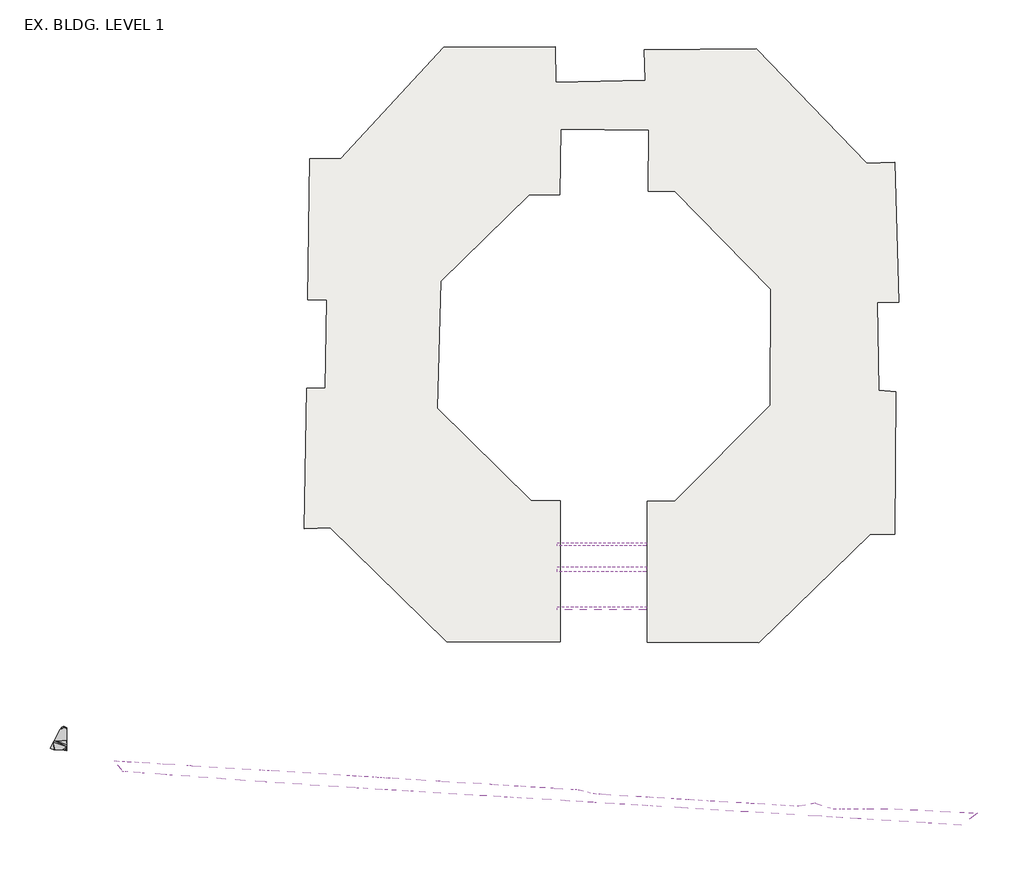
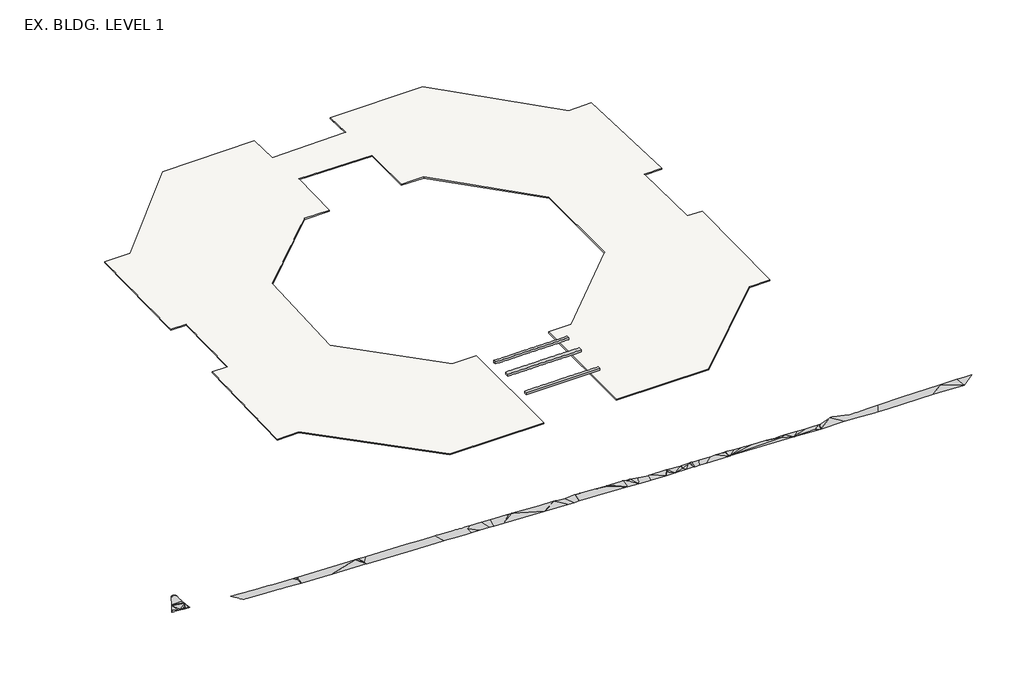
# One storey, incomplete: 3 beams, 2 proxies, 1 slab.
"""IFC4 building model written with IfcOpenShell, lengths in millimetres."""

from ifc_helpers import new_model, si_unit, frame, origin, place, context, project, spatial, polyline, outline, extrude, faceted_brep, triangles, element, save

model = new_model("IFC4")

# Units and contexts
model_context = context("Model", 3, world=origin())
ifc_project = project(units=[si_unit("LENGTHUNIT", "METRE", prefix="MILLI")], contexts=[model_context])

# Site, building, storey
site = spatial("IfcSite", under=ifc_project)
building = spatial("IfcBuilding", under=site)
storey = spatial("IfcBuildingStorey", under=building, Name="EX. BLDG. LEVEL 1", Elevation=290690.3)

# Beams
placement = place(None, origin())
element("IfcBeam", 1, ObjectType="Concrete-Rectangular Beam : 24 x 20\"", at=placement, inside=storey, context=model_context, shape_type="Brep", body=[
    faceted_brep([(39697.4615466, 219988.1613196, 294652.7), (39697.4615466, 219378.5613196, 294652.7), (39697.4615466, 219378.5613196, 294144.7), (39697.4615466, 219988.1613196, 294144.7), (22171.4615466, 219988.1613196, 294652.7), (22171.4615466, 219988.1613196, 294144.7), (22171.4615466, 219378.5613196, 294144.7), (22171.4615466, 219378.5613196, 294652.7), (39629.0226838, 219988.1613196, 294652.7), (39451.2226838, 219988.1613196, 294652.7), (38714.6226838, 219988.1613196, 294652.7), (38536.8226838, 219988.1613196, 294652.7), (37800.2226838, 219988.1613196, 294652.7), (37622.4226838, 219988.1613196, 294652.7), (36885.8226838, 219988.1613196, 294652.7), (36708.0226838, 219988.1613196, 294652.7), (35971.4226838, 219988.1613196, 294652.7), (35793.6226838, 219988.1613196, 294652.7), (35057.0226838, 219988.1613196, 294652.7), (34879.2226838, 219988.1613196, 294652.7), (34142.6226838, 219988.1613196, 294652.7), (33964.8226838, 219988.1613196, 294652.7), (33228.2226838, 219988.1613196, 294652.7), (33050.4226838, 219988.1613196, 294652.7), (32313.8226838, 219988.1613196, 294652.7), (32136.0226838, 219988.1613196, 294652.7), (31399.4226838, 219988.1613196, 294652.7), (31221.6226838, 219988.1613196, 294652.7), (30485.0226838, 219988.1613196, 294652.7), (30307.2226838, 219988.1613196, 294652.7), (29570.6226838, 219988.1613196, 294652.7), (29392.8226838, 219988.1613196, 294652.7), (28656.2226838, 219988.1613196, 294652.7), (28478.4226838, 219988.1613196, 294652.7), (27741.8226838, 219988.1613196, 294652.7), (27564.0226838, 219988.1613196, 294652.7), (26827.4226838, 219988.1613196, 294652.7), (26649.6226838, 219988.1613196, 294652.7), (25913.0226838, 219988.1613196, 294652.7), (25735.2226838, 219988.1613196, 294652.7), (24998.6226838, 219988.1613196, 294652.7), (24820.8226838, 219988.1613196, 294652.7), (24084.2226838, 219988.1613196, 294652.7), (23906.4226838, 219988.1613196, 294652.7), (23169.8226838, 219988.1613196, 294652.7), (22992.0226838, 219988.1613196, 294652.7), (22992.0226838, 219378.5613196, 294652.7), (23169.8226838, 219378.5613196, 294652.7), (23906.4226838, 219378.5613196, 294652.7), (24084.2226838, 219378.5613196, 294652.7), (24820.8226838, 219378.5613196, 294652.7), (24998.6226838, 219378.5613196, 294652.7), (25735.2226838, 219378.5613196, 294652.7), (25913.0226838, 219378.5613196, 294652.7), (26649.6226838, 219378.5613196, 294652.7), (26827.4226838, 219378.5613196, 294652.7), (27564.0226838, 219378.5613196, 294652.7), (27741.8226838, 219378.5613196, 294652.7), (28478.4226838, 219378.5613196, 294652.7), (28656.2226838, 219378.5613196, 294652.7), (29392.8226838, 219378.5613196, 294652.7), (29570.6226838, 219378.5613196, 294652.7), (30307.2226838, 219378.5613196, 294652.7), (30485.0226838, 219378.5613196, 294652.7), (31221.6226838, 219378.5613196, 294652.7), (31399.4226838, 219378.5613196, 294652.7), (32136.0226838, 219378.5613196, 294652.7), (32313.8226838, 219378.5613196, 294652.7), (33050.4226838, 219378.5613196, 294652.7), (33228.2226838, 219378.5613196, 294652.7), (33964.8226838, 219378.5613196, 294652.7), (34142.6226838, 219378.5613196, 294652.7), (34879.2226838, 219378.5613196, 294652.7), (35057.0226838, 219378.5613196, 294652.7), (35793.6226838, 219378.5613196, 294652.7), (35971.4226838, 219378.5613196, 294652.7), (36708.0226838, 219378.5613196, 294652.7), (36885.8226838, 219378.5613196, 294652.7), (37622.4226838, 219378.5613196, 294652.7), (37800.2226838, 219378.5613196, 294652.7), (38536.8226838, 219378.5613196, 294652.7), (38714.6226838, 219378.5613196, 294652.7), (39451.2226838, 219378.5613196, 294652.7), (39629.0226838, 219378.5613196, 294652.7), (22992.0226838, 219378.5613196, 294144.7), (23169.8226838, 219378.5613196, 294144.7), (23906.4226838, 219378.5613196, 294144.7), (24084.2226838, 219378.5613196, 294144.7), (24820.8226838, 219378.5613196, 294144.7), (24998.6226838, 219378.5613196, 294144.7), (25735.2226838, 219378.5613196, 294144.7), (25913.0226838, 219378.5613196, 294144.7), (26649.6226838, 219378.5613196, 294144.7), (26827.4226838, 219378.5613196, 294144.7), (27564.0226838, 219378.5613196, 294144.7), (27741.8226838, 219378.5613196, 294144.7), (28478.4226838, 219378.5613196, 294144.7), (28656.2226838, 219378.5613196, 294144.7), (29392.8226838, 219378.5613196, 294144.7), (29570.6226838, 219378.5613196, 294144.7), (30307.2226838, 219378.5613196, 294144.7), (30485.0226838, 219378.5613196, 294144.7), (31221.6226838, 219378.5613196, 294144.7), (31399.4226838, 219378.5613196, 294144.7), (32136.0226838, 219378.5613196, 294144.7), (32313.8226838, 219378.5613196, 294144.7), (33050.4226838, 219378.5613196, 294144.7), (33228.2226838, 219378.5613196, 294144.7), (33964.8226838, 219378.5613196, 294144.7), (34142.6226838, 219378.5613196, 294144.7), (34879.2226838, 219378.5613196, 294144.7), (35057.0226838, 219378.5613196, 294144.7), (35793.6226838, 219378.5613196, 294144.7), (35971.4226838, 219378.5613196, 294144.7), (36708.0226838, 219378.5613196, 294144.7), (36885.8226838, 219378.5613196, 294144.7), (37622.4226838, 219378.5613196, 294144.7), (37800.2226838, 219378.5613196, 294144.7), (38536.8226838, 219378.5613196, 294144.7), (38714.6226838, 219378.5613196, 294144.7), (39451.2226838, 219378.5613196, 294144.7), (39629.0226838, 219378.5613196, 294144.7), (22992.0226838, 219988.1613196, 294144.7), (23169.8226838, 219988.1613196, 294144.7), (23906.4226838, 219988.1613196, 294144.7), (24084.2226838, 219988.1613196, 294144.7), (24820.8226838, 219988.1613196, 294144.7), (24998.6226838, 219988.1613196, 294144.7), (25735.2226838, 219988.1613196, 294144.7), (25913.0226838, 219988.1613196, 294144.7), (26649.6226838, 219988.1613196, 294144.7), (26827.4226838, 219988.1613196, 294144.7), (27564.0226838, 219988.1613196, 294144.7), (27741.8226838, 219988.1613196, 294144.7), (28478.4226838, 219988.1613196, 294144.7), (28656.2226838, 219988.1613196, 294144.7), (29392.8226838, 219988.1613196, 294144.7), (29570.6226838, 219988.1613196, 294144.7), (30307.2226838, 219988.1613196, 294144.7), (30485.0226838, 219988.1613196, 294144.7), (31221.6226838, 219988.1613196, 294144.7), (31399.4226838, 219988.1613196, 294144.7), (32136.0226838, 219988.1613196, 294144.7), (32313.8226838, 219988.1613196, 294144.7), (33050.4226838, 219988.1613196, 294144.7), (33228.2226838, 219988.1613196, 294144.7), (33964.8226838, 219988.1613196, 294144.7), (34142.6226838, 219988.1613196, 294144.7), (34879.2226838, 219988.1613196, 294144.7), (35057.0226838, 219988.1613196, 294144.7), (35793.6226838, 219988.1613196, 294144.7), (35971.4226838, 219988.1613196, 294144.7), (36708.0226838, 219988.1613196, 294144.7), (36885.8226838, 219988.1613196, 294144.7), (37622.4226838, 219988.1613196, 294144.7), (37800.2226838, 219988.1613196, 294144.7), (38536.8226838, 219988.1613196, 294144.7), (38714.6226838, 219988.1613196, 294144.7), (39451.2226838, 219988.1613196, 294144.7), (39629.0226838, 219988.1613196, 294144.7)], [[[0, 1, 2, 3]], [[4, 5, 6, 7]], [[1, 0, 8, 9, 10, 11, 12, 13, 14, 15, 16, 17, 18, 19, 20, 21, 22, 23, 24, 25, 26, 27, 28, 29, 30, 31, 32, 33, 34, 35, 36, 37, 38, 39, 40, 41, 42, 43, 44, 45, 4, 7, 46, 47, 48, 49, 50, 51, 52, 53, 54, 55, 56, 57, 58, 59, 60, 61, 62, 63, 64, 65, 66, 67, 68, 69, 70, 71, 72, 73, 74, 75, 76, 77, 78, 79, 80, 81, 82, 83]], [[2, 1, 83, 82, 81, 80, 79, 78, 77, 76, 75, 74, 73, 72, 71, 70, 69, 68, 67, 66, 65, 64, 63, 62, 61, 60, 59, 58, 57, 56, 55, 54, 53, 52, 51, 50, 49, 48, 47, 46, 7, 6, 84, 85, 86, 87, 88, 89, 90, 91, 92, 93, 94, 95, 96, 97, 98, 99, 100, 101, 102, 103, 104, 105, 106, 107, 108, 109, 110, 111, 112, 113, 114, 115, 116, 117, 118, 119, 120, 121]], [[3, 2, 121, 120, 119, 118, 117, 116, 115, 114, 113, 112, 111, 110, 109, 108, 107, 106, 105, 104, 103, 102, 101, 100, 99, 98, 97, 96, 95, 94, 93, 92, 91, 90, 89, 88, 87, 86, 85, 84, 6, 5, 122, 123, 124, 125, 126, 127, 128, 129, 130, 131, 132, 133, 134, 135, 136, 137, 138, 139, 140, 141, 142, 143, 144, 145, 146, 147, 148, 149, 150, 151, 152, 153, 154, 155, 156, 157, 158, 159]], [[0, 3, 159, 158, 157, 156, 155, 154, 153, 152, 151, 150, 149, 148, 147, 146, 145, 144, 143, 142, 141, 140, 139, 138, 137, 136, 135, 134, 133, 132, 131, 130, 129, 128, 127, 126, 125, 124, 123, 122, 5, 4, 45, 44, 43, 42, 41, 40, 39, 38, 37, 36, 35, 34, 33, 32, 31, 30, 29, 28, 27, 26, 25, 24, 23, 22, 21, 20, 19, 18, 17, 16, 15, 14, 13, 12, 11, 10, 9, 8]]]),
])
element("IfcBeam", 2, ObjectType="Concrete-Rectangular Beam : 24 x 20\"", at=placement, inside=storey, context=model_context, shape_type="Brep", body=[
    faceted_brep([(39697.4615466, 207293.760969, 294652.7), (39697.4615466, 206684.160969, 294652.7), (39697.4615466, 206684.160969, 294144.7), (39697.4615466, 207293.760969, 294144.7), (22171.4615466, 207293.760969, 294652.7), (22171.4615466, 207293.760969, 294144.7), (22171.4615466, 206684.160969, 294144.7), (22171.4615466, 206684.160969, 294652.7), (39629.0226838, 207293.760969, 294652.7), (39451.2226838, 207293.760969, 294652.7), (38714.6226838, 207293.760969, 294652.7), (38536.8226838, 207293.760969, 294652.7), (37800.2226838, 207293.760969, 294652.7), (37622.4226838, 207293.760969, 294652.7), (36885.8226838, 207293.760969, 294652.7), (36708.0226838, 207293.760969, 294652.7), (35971.4226838, 207293.760969, 294652.7), (35793.6226838, 207293.760969, 294652.7), (35057.0226838, 207293.760969, 294652.7), (34879.2226838, 207293.760969, 294652.7), (34142.6226838, 207293.760969, 294652.7), (33964.8226838, 207293.760969, 294652.7), (33228.2226838, 207293.760969, 294652.7), (33050.4226838, 207293.760969, 294652.7), (32313.8226838, 207293.760969, 294652.7), (32136.0226838, 207293.760969, 294652.7), (31399.4226838, 207293.760969, 294652.7), (31221.6226838, 207293.760969, 294652.7), (30485.0226838, 207293.760969, 294652.7), (30307.2226838, 207293.760969, 294652.7), (29570.6226838, 207293.760969, 294652.7), (29392.8226838, 207293.760969, 294652.7), (28656.2226838, 207293.760969, 294652.7), (28478.4226838, 207293.760969, 294652.7), (27741.8226838, 207293.760969, 294652.7), (27564.0226838, 207293.760969, 294652.7), (26827.4226838, 207293.760969, 294652.7), (26649.6226838, 207293.760969, 294652.7), (25913.0226838, 207293.760969, 294652.7), (25735.2226838, 207293.760969, 294652.7), (24998.6226838, 207293.760969, 294652.7), (24820.8226838, 207293.760969, 294652.7), (24084.2226838, 207293.760969, 294652.7), (23906.4226838, 207293.760969, 294652.7), (23169.8226838, 207293.760969, 294652.7), (22992.0226838, 207293.760969, 294652.7), (22992.0226838, 207293.760969, 294144.7), (23169.8226838, 207293.760969, 294144.7), (23906.4226838, 207293.760969, 294144.7), (24084.2226838, 207293.760969, 294144.7), (24820.8226838, 207293.760969, 294144.7), (24998.6226838, 207293.760969, 294144.7), (25735.2226838, 207293.760969, 294144.7), (25913.0226838, 207293.760969, 294144.7), (26649.6226838, 207293.760969, 294144.7), (26827.4226838, 207293.760969, 294144.7), (27564.0226838, 207293.760969, 294144.7), (27741.8226838, 207293.760969, 294144.7), (28478.4226838, 207293.760969, 294144.7), (28656.2226838, 207293.760969, 294144.7), (29392.8226838, 207293.760969, 294144.7), (29570.6226838, 207293.760969, 294144.7), (30307.2226838, 207293.760969, 294144.7), (30485.0226838, 207293.760969, 294144.7), (31221.6226838, 207293.760969, 294144.7), (31399.4226838, 207293.760969, 294144.7), (32136.0226838, 207293.760969, 294144.7), (32313.8226838, 207293.760969, 294144.7), (33050.4226838, 207293.760969, 294144.7), (33228.2226838, 207293.760969, 294144.7), (33964.8226838, 207293.760969, 294144.7), (34142.6226838, 207293.760969, 294144.7), (34879.2226838, 207293.760969, 294144.7), (35057.0226838, 207293.760969, 294144.7), (35793.6226838, 207293.760969, 294144.7), (35971.4226838, 207293.760969, 294144.7), (36708.0226838, 207293.760969, 294144.7), (36885.8226838, 207293.760969, 294144.7), (37622.4226838, 207293.760969, 294144.7), (37800.2226838, 207293.760969, 294144.7), (38536.8226838, 207293.760969, 294144.7), (38714.6226838, 207293.760969, 294144.7), (39451.2226838, 207293.760969, 294144.7), (39629.0226838, 207293.760969, 294144.7)], [[[0, 1, 2, 3]], [[4, 5, 6, 7]], [[1, 0, 8, 9, 10, 11, 12, 13, 14, 15, 16, 17, 18, 19, 20, 21, 22, 23, 24, 25, 26, 27, 28, 29, 30, 31, 32, 33, 34, 35, 36, 37, 38, 39, 40, 41, 42, 43, 44, 45, 4, 7]], [[2, 1, 7, 6]], [[3, 2, 6, 5, 46, 47, 48, 49, 50, 51, 52, 53, 54, 55, 56, 57, 58, 59, 60, 61, 62, 63, 64, 65, 66, 67, 68, 69, 70, 71, 72, 73, 74, 75, 76, 77, 78, 79, 80, 81, 82, 83]], [[0, 3, 83, 82, 81, 80, 79, 78, 77, 76, 75, 74, 73, 72, 71, 70, 69, 68, 67, 66, 65, 64, 63, 62, 61, 60, 59, 58, 57, 56, 55, 54, 53, 52, 51, 50, 49, 48, 47, 46, 5, 4, 45, 44, 43, 42, 41, 40, 39, 38, 37, 36, 35, 34, 33, 32, 31, 30, 29, 28, 27, 26, 25, 24, 23, 22, 21, 20, 19, 18, 17, 16, 15, 14, 13, 12, 11, 10, 9, 8]]]),
])
element("IfcBeam", 3, ObjectType="Concrete-Rectangular Beam : 36\" x 20\"", at=placement, inside=storey, context=model_context, shape_type="Brep", body=[
    faceted_brep([(39697.4615466, 215192.390059, 294652.7), (39697.4615466, 214277.990059, 294652.7), (39697.4615466, 214277.990059, 294144.7), (39697.4615466, 215192.390059, 294144.7), (22171.4615466, 215192.390059, 294652.7), (22171.4615466, 215192.390059, 294144.7), (22171.4615466, 214277.990059, 294144.7), (22171.4615466, 214277.990059, 294652.7), (39629.0226838, 215192.390059, 294652.7), (39451.2226838, 215192.390059, 294652.7), (38714.6226838, 215192.390059, 294652.7), (38536.8226838, 215192.390059, 294652.7), (37800.2226838, 215192.390059, 294652.7), (37622.4226838, 215192.390059, 294652.7), (36885.8226838, 215192.390059, 294652.7), (36708.0226838, 215192.390059, 294652.7), (35971.4226838, 215192.390059, 294652.7), (35793.6226838, 215192.390059, 294652.7), (35057.0226838, 215192.390059, 294652.7), (34879.2226838, 215192.390059, 294652.7), (34142.6226838, 215192.390059, 294652.7), (33964.8226838, 215192.390059, 294652.7), (33228.2226838, 215192.390059, 294652.7), (33050.4226838, 215192.390059, 294652.7), (32313.8226838, 215192.390059, 294652.7), (32136.0226838, 215192.390059, 294652.7), (31399.4226838, 215192.390059, 294652.7), (31221.6226838, 215192.390059, 294652.7), (30485.0226838, 215192.390059, 294652.7), (30307.2226838, 215192.390059, 294652.7), (29570.6226838, 215192.390059, 294652.7), (29392.8226838, 215192.390059, 294652.7), (28656.2226838, 215192.390059, 294652.7), (28478.4226838, 215192.390059, 294652.7), (27741.8226838, 215192.390059, 294652.7), (27564.0226838, 215192.390059, 294652.7), (26827.4226838, 215192.390059, 294652.7), (26649.6226838, 215192.390059, 294652.7), (25913.0226838, 215192.390059, 294652.7), (25735.2226838, 215192.390059, 294652.7), (24998.6226838, 215192.390059, 294652.7), (24820.8226838, 215192.390059, 294652.7), (24084.2226838, 215192.390059, 294652.7), (23906.4226838, 215192.390059, 294652.7), (23169.8226838, 215192.390059, 294652.7), (22992.0226838, 215192.390059, 294652.7), (22992.0226838, 214277.990059, 294652.7), (23169.8226838, 214277.990059, 294652.7), (23906.4226838, 214277.990059, 294652.7), (24084.2226838, 214277.990059, 294652.7), (24820.8226838, 214277.990059, 294652.7), (24998.6226838, 214277.990059, 294652.7), (25735.2226838, 214277.990059, 294652.7), (25913.0226838, 214277.990059, 294652.7), (26649.6226838, 214277.990059, 294652.7), (26827.4226838, 214277.990059, 294652.7), (27564.0226838, 214277.990059, 294652.7), (27741.8226838, 214277.990059, 294652.7), (28478.4226838, 214277.990059, 294652.7), (28656.2226838, 214277.990059, 294652.7), (29392.8226838, 214277.990059, 294652.7), (29570.6226838, 214277.990059, 294652.7), (30307.2226838, 214277.990059, 294652.7), (30485.0226838, 214277.990059, 294652.7), (31221.6226838, 214277.990059, 294652.7), (31399.4226838, 214277.990059, 294652.7), (32136.0226838, 214277.990059, 294652.7), (32313.8226838, 214277.990059, 294652.7), (33050.4226838, 214277.990059, 294652.7), (33228.2226838, 214277.990059, 294652.7), (33964.8226838, 214277.990059, 294652.7), (34142.6226838, 214277.990059, 294652.7), (34879.2226838, 214277.990059, 294652.7), (35057.0226838, 214277.990059, 294652.7), (35793.6226838, 214277.990059, 294652.7), (35971.4226838, 214277.990059, 294652.7), (36708.0226838, 214277.990059, 294652.7), (36885.8226838, 214277.990059, 294652.7), (37622.4226838, 214277.990059, 294652.7), (37800.2226838, 214277.990059, 294652.7), (38536.8226838, 214277.990059, 294652.7), (38714.6226838, 214277.990059, 294652.7), (39451.2226838, 214277.990059, 294652.7), (39629.0226838, 214277.990059, 294652.7), (22992.0226838, 214277.990059, 294144.7), (23169.8226838, 214277.990059, 294144.7), (23906.4226838, 214277.990059, 294144.7), (24084.2226838, 214277.990059, 294144.7), (24820.8226838, 214277.990059, 294144.7), (24998.6226838, 214277.990059, 294144.7), (25735.2226838, 214277.990059, 294144.7), (25913.0226838, 214277.990059, 294144.7), (26649.6226838, 214277.990059, 294144.7), (26827.4226838, 214277.990059, 294144.7), (27564.0226838, 214277.990059, 294144.7), (27741.8226838, 214277.990059, 294144.7), (28478.4226838, 214277.990059, 294144.7), (28656.2226838, 214277.990059, 294144.7), (29392.8226838, 214277.990059, 294144.7), (29570.6226838, 214277.990059, 294144.7), (30307.2226838, 214277.990059, 294144.7), (30485.0226838, 214277.990059, 294144.7), (31221.6226838, 214277.990059, 294144.7), (31399.4226838, 214277.990059, 294144.7), (32136.0226838, 214277.990059, 294144.7), (32313.8226838, 214277.990059, 294144.7), (33050.4226838, 214277.990059, 294144.7), (33228.2226838, 214277.990059, 294144.7), (33964.8226838, 214277.990059, 294144.7), (34142.6226838, 214277.990059, 294144.7), (34879.2226838, 214277.990059, 294144.7), (35057.0226838, 214277.990059, 294144.7), (35793.6226838, 214277.990059, 294144.7), (35971.4226838, 214277.990059, 294144.7), (36708.0226838, 214277.990059, 294144.7), (36885.8226838, 214277.990059, 294144.7), (37622.4226838, 214277.990059, 294144.7), (37800.2226838, 214277.990059, 294144.7), (38536.8226838, 214277.990059, 294144.7), (38714.6226838, 214277.990059, 294144.7), (39451.2226838, 214277.990059, 294144.7), (39629.0226838, 214277.990059, 294144.7), (22992.0226838, 215192.390059, 294144.7), (23169.8226838, 215192.390059, 294144.7), (23906.4226838, 215192.390059, 294144.7), (24084.2226838, 215192.390059, 294144.7), (24820.8226838, 215192.390059, 294144.7), (24998.6226838, 215192.390059, 294144.7), (25735.2226838, 215192.390059, 294144.7), (25913.0226838, 215192.390059, 294144.7), (26649.6226838, 215192.390059, 294144.7), (26827.4226838, 215192.390059, 294144.7), (27564.0226838, 215192.390059, 294144.7), (27741.8226838, 215192.390059, 294144.7), (28478.4226838, 215192.390059, 294144.7), (28656.2226838, 215192.390059, 294144.7), (29392.8226838, 215192.390059, 294144.7), (29570.6226838, 215192.390059, 294144.7), (30307.2226838, 215192.390059, 294144.7), (30485.0226838, 215192.390059, 294144.7), (31221.6226838, 215192.390059, 294144.7), (31399.4226838, 215192.390059, 294144.7), (32136.0226838, 215192.390059, 294144.7), (32313.8226838, 215192.390059, 294144.7), (33050.4226838, 215192.390059, 294144.7), (33228.2226838, 215192.390059, 294144.7), (33964.8226838, 215192.390059, 294144.7), (34142.6226838, 215192.390059, 294144.7), (34879.2226838, 215192.390059, 294144.7), (35057.0226838, 215192.390059, 294144.7), (35793.6226838, 215192.390059, 294144.7), (35971.4226838, 215192.390059, 294144.7), (36708.0226838, 215192.390059, 294144.7), (36885.8226838, 215192.390059, 294144.7), (37622.4226838, 215192.390059, 294144.7), (37800.2226838, 215192.390059, 294144.7), (38536.8226838, 215192.390059, 294144.7), (38714.6226838, 215192.390059, 294144.7), (39451.2226838, 215192.390059, 294144.7), (39629.0226838, 215192.390059, 294144.7)], [[[0, 1, 2, 3]], [[4, 5, 6, 7]], [[1, 0, 8, 9, 10, 11, 12, 13, 14, 15, 16, 17, 18, 19, 20, 21, 22, 23, 24, 25, 26, 27, 28, 29, 30, 31, 32, 33, 34, 35, 36, 37, 38, 39, 40, 41, 42, 43, 44, 45, 4, 7, 46, 47, 48, 49, 50, 51, 52, 53, 54, 55, 56, 57, 58, 59, 60, 61, 62, 63, 64, 65, 66, 67, 68, 69, 70, 71, 72, 73, 74, 75, 76, 77, 78, 79, 80, 81, 82, 83]], [[2, 1, 83, 82, 81, 80, 79, 78, 77, 76, 75, 74, 73, 72, 71, 70, 69, 68, 67, 66, 65, 64, 63, 62, 61, 60, 59, 58, 57, 56, 55, 54, 53, 52, 51, 50, 49, 48, 47, 46, 7, 6, 84, 85, 86, 87, 88, 89, 90, 91, 92, 93, 94, 95, 96, 97, 98, 99, 100, 101, 102, 103, 104, 105, 106, 107, 108, 109, 110, 111, 112, 113, 114, 115, 116, 117, 118, 119, 120, 121]], [[3, 2, 121, 120, 119, 118, 117, 116, 115, 114, 113, 112, 111, 110, 109, 108, 107, 106, 105, 104, 103, 102, 101, 100, 99, 98, 97, 96, 95, 94, 93, 92, 91, 90, 89, 88, 87, 86, 85, 84, 6, 5, 122, 123, 124, 125, 126, 127, 128, 129, 130, 131, 132, 133, 134, 135, 136, 137, 138, 139, 140, 141, 142, 143, 144, 145, 146, 147, 148, 149, 150, 151, 152, 153, 154, 155, 156, 157, 158, 159]], [[0, 3, 159, 158, 157, 156, 155, 154, 153, 152, 151, 150, 149, 148, 147, 146, 145, 144, 143, 142, 141, 140, 139, 138, 137, 136, 135, 134, 133, 132, 131, 130, 129, 128, 127, 126, 125, 124, 123, 122, 5, 4, 45, 44, 43, 42, 41, 40, 39, 38, 37, 36, 35, 34, 33, 32, 31, 30, 29, 28, 27, 26, 25, 24, 23, 22, 21, 20, 19, 18, 17, 16, 15, 14, 13, 12, 11, 10, 9, 8]]]),
])

# Proxies
element("IfcBuildingElementProxy", 4, Name="Building Element Proxy", at=placement, inside=storey, context=model_context, shape_type="Tessellation", body=[
    triangles([(-74733.0523315, 177763.7727539, 291986.4751465), (-74733.2709229, 177919.279541, 291984.8008301), (-74735.7591431, 179668.0658203, 291814.0019531), (-74736.3079468, 180056.1165527, 291780.9621094), (-74737.4846191, 180881.2568848, 291693.6), (-74737.605542, 180967.5027832, 291693.6), (-74739.2473022, 182122.3160156, 291693.6), (-74740.1867798, 182781.6804199, 291693.6), (-74740.637915, 183099.5214844, 291693.6), (-74740.7216309, 183160.3177734, 291689.488623), (-74788.532666, 183299.2674316, 291681.5635254), (-74807.7268433, 183355.059375, 291676.2057129), (-74813.0055908, 183370.4072754, 291674.1965332), (-74881.3781616, 183452.5417969, 291661.490332), (-74955.1364502, 183541.1689453, 291659.2579102), (-75148.6130127, 183650.3901855, 291666.9969727), (-75201.1446899, 183658.3896973, 291671.4618164), (-75365.5393066, 183683.4114258, 291665.2854492), (-75368.2554199, 183683.8393066, 291665.0994141), (-75585.4747192, 183637.1630859, 291659.1276855), (-75771.9935669, 183516.444873, 291662.7925781), (-75826.0321289, 183442.8865723, 291668.057373), (-75903.534375, 183337.4046387, 291681.8425781), (-75905.2086914, 183334.2978516, 291682.2518555), (-76029.8475952, 183103.5956543, 291693.6), (-77261.539856, 180823.753418, 291693.6), (-77431.799231, 180508.6098633, 291735.9974121), (-78424.3851563, 178739.9364258, 291974.5316895), (-78606.0205811, 178416.2538574, 291980.9871094), (-78773.4429199, 178117.9464844, 291993.4328613), (-78699.391626, 178111.4538574, 291998.4), (-78633.2468262, 178105.6495605, 291998.4), (-78607.2391113, 178103.3799316, 291998.4), (-78388.4896729, 178084.199707, 291998.4), (-77251.9962524, 177984.5778809, 291998.4), (-76722.070459, 177938.1249023, 291998.4), (-76205.915918, 177892.8811523, 291998.4), (-76034.2752319, 177877.8309082, 291998.4), (-75807.1263062, 177857.9251465, 291998.4), (-75517.0556396, 177832.4941406, 291998.4), (-75009.1982666, 177787.9759277, 291998.4), (-74913.5715454, 177779.5857422, 291998.4), (-74893.9169312, 177777.8742188, 291996.0001465), (-74873.4065552, 177776.0696777, 291996.5210449), (-77243.9688354, 178105.4263184, 291998.4), (-76787.9269043, 178131.6014648, 291998.4), (-74999.2546875, 177909.3080566, 291998.4), (-76121.6140869, 178007.3671875, 291998.4), (-76682.7937866, 178056.3874512, 291998.4), (-75893.5907959, 178020.4640625, 291998.4), (-75560.4343872, 177958.3469238, 291998.4), (-78523.7744385, 178251.8359863, 291998.4), (-78293.6117432, 178536.8790527, 291998.4), (-77253.5449951, 178012.2971191, 291998.4), (-76855.6669556, 178128.7365234, 291998.4), (-74998.1245239, 177909.3266602, 291998.4), (-77177.2287231, 180814.2098145, 291693.6), (-74814.7822266, 180854.095752, 291693.6), (-75749.0879883, 183244.4986816, 291693.6), (-75232.2218628, 183485.9351074, 291693.6), (-74890.4613281, 183168.8567871, 291693.6)], [[34, 35, 54], [55, 54, 35], [52, 33, 34], [31, 29, 30], [33, 52, 32], [32, 52, 31], [34, 54, 45], [36, 37, 49], [38, 39, 50], [37, 38, 48], [49, 46, 36], [35, 36, 55], [49, 48, 46], [50, 48, 38], [37, 48, 49], [46, 48, 3], [50, 3, 48], [54, 55, 45], [53, 34, 45], [29, 52, 53], [52, 29, 31], [52, 34, 53], [29, 53, 28], [53, 45, 28], [26, 57, 25], [57, 26, 27], [27, 46, 3], [45, 27, 28], [57, 27, 3], [46, 55, 36], [25, 59, 24], [59, 25, 7], [25, 57, 7], [46, 27, 55], [24, 59, 23], [23, 59, 22], [59, 21, 22], [59, 20, 21], [55, 27, 45], [50, 39, 51], [56, 41, 42], [56, 42, 43], [51, 40, 47], [40, 51, 39], [51, 47, 3], [47, 40, 41], [41, 56, 47], [3, 47, 56], [43, 44, 56], [57, 3, 4], [56, 2, 3], [1, 2, 44], [58, 6, 7], [6, 58, 5], [4, 5, 58], [4, 58, 57], [56, 44, 2], [7, 57, 58], [19, 20, 60], [60, 59, 61], [14, 60, 61], [60, 14, 15], [20, 59, 60], [16, 60, 15], [18, 19, 60], [16, 17, 60], [18, 60, 17], [61, 9, 10], [8, 9, 61], [61, 10, 11], [14, 61, 13], [13, 61, 12], [11, 12, 61], [8, 61, 59], [7, 8, 59], [51, 3, 50]], closed=False),
])
element("IfcBuildingElementProxy", 5, Name="Building Element Proxy", at=placement, inside=storey, context=model_context, shape_type="Tessellation", body=[
    triangles([(102009.7827393, 164190.6291504, 294297.6084961), (105175.626709, 166544.9970703, 294399.7790039), (103428.0775635, 166636.5821777, 294373.4178223), (101681.5330078, 166728.1114746, 294351.4284668), (97856.4083496, 166928.582959, 294240.4584961), (88854.9205811, 167400.3309082, 293982.9858398), (83265.6338379, 167400.3309082, 293827.2), (82535.4737549, 167400.3309082, 293827.2), (80767.544458, 167400.3309082, 293827.2), (79481.2508789, 167400.3309082, 293827.2), (78482.6420654, 167400.3309082, 293827.2), (77869.1539307, 167400.3309082, 293827.2), (76637.4244629, 167400.3309082, 293827.2), (75610.3243652, 167746.6911621, 293827.2), (73266.7790405, 168536.9871094, 293827.2), (73129.0618652, 168583.4214844, 293827.2), (72698.5207031, 168502.663623, 293827.2), (72484.8686279, 168462.5916504, 293827.2), (72314.3953125, 168430.612207, 293816.6704102), (69885.617981, 167975.0493164, 293465.4732422), (69579.0134399, 167993.1691406, 293392.2125977), (68087.1510132, 168081.3684082, 293379.4691895), (66271.8060059, 168188.6920898, 293363.9910645), (64604.005481, 168287.2907227, 293325.2027344), (61730.0599731, 168457.1966309, 293348.6431641), (60377.9890137, 168537.1359375, 293217.4697754), (59505.5864502, 168588.7048828, 293206.5495117), (57494.4812988, 168707.5999512, 293324.7748535), (54147.0019043, 168905.5041504, 293251.3281738), (52332.5963745, 169012.7720215, 293241.9147949), (51636.2342285, 169054.5927246, 293238.2312988), (50017.2446777, 169151.8519043, 293252.4443848), (48446.5638062, 169246.190332, 293343.4527832), (48097.7664917, 169267.1378906, 293323.9935059), (47966.7791382, 169275.0071777, 293337.5368652), (47479.3344727, 169304.2891113, 293342.4109863), (45795.7721191, 169405.3992188, 293251.1979492), (44628.6480103, 169475.4972656, 293217.6), (41872.4720581, 169641.0499512, 293217.6), (40365.7035645, 169731.5560547, 293067.2463867), (40174.9291626, 169743.0158203, 293127.0380859), (39788.7434326, 169766.2144043, 293173.1934082), (39600.647937, 169777.5067383, 293156.7851074), (37859.91698, 169887.7883789, 293002.6177734), (37733.1200684, 169895.8250977, 292988.8883789), (37617.913147, 169903.1176758, 292990.2836426), (34538.2499634, 170098.2313477, 293020.9608398), (34473.7120422, 170102.3055176, 293030.4672363), (30874.1154785, 170330.3660156, 292933.2080566), (30382.0269104, 170361.5269043, 292915.1626465), (30313.963623, 170365.8429199, 292912.8), (30297.3297546, 170366.9033203, 292912.8), (29409.511853, 170423.141748, 292912.8), (29279.8918579, 170431.364502, 292912.8), (28121.0974731, 170730.9369141, 292912.8), (26494.4246704, 171151.4879883, 292846.7203125), (26293.1741638, 171203.503418, 292838.5347656), (25674.0538147, 171241.7150391, 292840.0974609), (24867.8518616, 171291.4608398, 292903.5540527), (24842.6440979, 171293.0235352, 292905.5446289), (21593.9749512, 171493.4950195, 292873.472168), (21112.6368896, 171523.204834, 292868.709668), (20906.2634399, 171535.9296387, 292869.8630859), (20821.2802551, 171541.3432617, 292870.3095703), (18642.7004425, 171679.9022461, 292912.8), (16911.6805206, 171789.9978516, 292912.8), (14939.1567352, 171915.4599609, 292912.8), (13870.3882507, 171983.437207, 292892.6709961), (13821.2924103, 171986.5625977, 292892.1128906), (13623.4556488, 171999.1571777, 292891.1269043), (11426.9187927, 172138.8695801, 292657.5783691), (9569.7681976, 172256.9833008, 292730.5227539), (9098.9405411, 172284.5537109, 292749.1634766), (8971.3762344, 172292.0137207, 292751.9912109), (8814.4468597, 172301.2038574, 292752.3632812), (8791.3785004, 172302.5619141, 292753.6283203), (5505.4238388, 172494.9594727, 292750.7075684), (-725.2031908, 172881.9684082, 292743.1359375), (-1324.4541859, 172919.1754395, 292733.1086426), (-1499.1385815, 172930.0398926, 292734.820166), (-1797.9638008, 172948.5875977, 292746.4473633), (-1899.5997482, 172954.912793, 292745.6102051), (-5725.049968, 173192.5168945, 292649.7648926), (-7818.1762756, 173322.5182617, 292652.704248), (-10490.6317566, 173488.5174316, 292608.0), (-11316.2360138, 173539.7887207, 292608.0), (-11684.6251556, 173562.6710449, 292608.0), (-12209.1187225, 173595.2644043, 292608.0), (-12868.2052368, 173636.1921387, 292608.0), (-13394.0347687, 173668.8599121, 292608.0), (-13769.3641846, 173692.1701172, 292608.0), (-14392.7389252, 173730.8840332, 292608.0), (-15960.2758026, 173828.254834, 292608.0), (-17085.4594482, 173898.1482422, 292608.0), (-18086.9355286, 173960.3397949, 292608.0), (-18351.9402832, 173976.8039063, 292608.0), (-19423.4225555, 174043.3486816, 292590.6987305), (-22062.1393982, 174207.2456543, 292543.669043), (-25005.3295166, 174390.0624023, 292491.3373535), (-34368.237085, 174971.6269043, 292344.3509766), (-35200.5909302, 175023.3260742, 292347.0670898), (-36111.0958191, 175079.8807617, 292342.0813477), (-36767.2743713, 175120.6224609, 292350.1180664), (-49955.3740356, 175939.7724609, 292042.1926758), (-50264.5877197, 175958.9898926, 292034.7140625), (-50436.4935059, 175969.6683105, 292032.2025879), (-51107.0246704, 176011.3029785, 291998.4), (-55766.2426025, 176300.6992676, 291998.4), (-56924.8509521, 176372.6762695, 291998.4), (-59851.337439, 176554.4512207, 291998.4), (-61296.7980469, 176644.2317871, 291998.4), (-62826.7604736, 176739.2585449, 291998.4), (-62852.3589111, 176740.8398438, 291998.4), (-62926.4660156, 176745.4535156, 291998.4), (-63805.4681763, 176800.0362305, 291998.4), (-64962.9556641, 176871.9388184, 291998.4), (-65128.0293091, 176882.1893555, 291998.4), (-65426.8529297, 176900.7556641, 291998.4), (-63943.8922852, 175076.3833008, 291998.4), (-63938.1019409, 175069.2581543, 291998.4), (-63673.8110962, 174744.1245117, 291998.4), (-63546.4188721, 174734.8599609, 291998.4), (-63480.0787354, 174730.0416504, 291998.4), (-62991.4853027, 174694.5089355, 291998.4), (-62708.6467529, 174673.9520508, 291998.4), (-60299.1752197, 174498.8185547, 291998.4), (-59446.562146, 174436.8316406, 291998.4), (-55176.8227661, 174126.4691895, 291998.4), (-54995.2245483, 174113.2792969, 291998.4), (-53947.6652344, 174037.1165039, 291998.4), (-50438.293396, 173782.0250977, 291998.4), (-43411.3548706, 173271.2469727, 292142.1865723), (-35553.5949646, 172700.0632324, 292303.2), (-35277.2653198, 172679.9714355, 292308.1299316), (-24891.2597351, 171983.1953613, 292493.2349121), (-21090.0266418, 171728.1783691, 292554.5707031), (-17783.2633667, 171525.6977051, 292608.0), (-17085.4594482, 171482.9840332, 292608.0), (-15256.9908234, 171371.0094727, 292608.0), (-12429.249472, 171197.8665527, 292608.0), (-11382.9238037, 171133.7960449, 292608.0), (-9647.261142, 171027.5327637, 292666.2662109), (-7347.3090866, 170886.7041504, 292704.7010742), (-6264.4949478, 170820.4012207, 292703.1569824), (-3977.2833939, 170680.3539551, 292760.4), (5451.1445938, 170103.0310547, 292833.1769531), (10983.420282, 169764.2796387, 292835.3907715), (12259.3412384, 169686.1634766, 292785.0868652), (13461.0004486, 169612.5679687, 292912.8), (15009.3501251, 169517.7644531, 292912.8), (17302.3671387, 169377.3637207, 292912.8), (24626.0805725, 168928.9259766, 292912.8), (27154.9820251, 168774.0703125, 292912.8), (29214.5749146, 168647.9570801, 292912.8), (29890.0406616, 168606.6014648, 292912.8), (33393.2082275, 168392.1029297, 293033.8902832), (35524.2804749, 168261.6178711, 293096.5841309), (38080.5081665, 168105.0878906, 293093.6075684), (39767.2796265, 168001.8011719, 293217.6), (40062.9127441, 167983.6999512, 293124.9358887), (40990.9816772, 167926.8848145, 293217.6), (42686.7665405, 167823.0399902, 293217.6), (47945.8408813, 167501.0317383, 293369.2372559), (48064.0057617, 167493.7949707, 293371.1162109), (62838.843457, 166589.1060059, 293561.8022461), (69003.3788086, 166211.6406738, 293547.9984375), (74402.6911011, 165881.0375977, 293827.2), (76448.1336914, 165755.7987305, 293827.2), (78125.3429443, 165653.0887207, 293827.2), (78601.6952637, 165623.9370117, 293827.2), (81505.3226807, 165446.1432129, 293827.2), (81778.7571533, 165429.4000488, 293827.2), (82126.3824463, 165408.0990234, 293827.2), (82261.2858398, 165399.8390625, 293827.2), (84569.0333496, 165258.5453613, 293893.5029297), (94902.5421387, 164625.8025879, 294194.7496582), (96095.8274414, 164552.746582, 294209.4650391), (-63771.9260376, 175063.4724609, 291998.4), (-63602.8526367, 174978.975293, 291998.4), (-62450.1741577, 175987.509082, 291998.4), (-61460.829895, 175226.9043457, 291998.4), (-62531.8435913, 175102.9305176, 291998.4), (39879.8076416, 169669.1412598, 293217.6), (-63449.7689575, 175932.7589355, 291998.4), (21112.6368896, 171322.0822266, 292912.8), (24842.6440979, 171259.9092773, 292912.8), (25674.0538147, 170910.032959, 292912.8), (34473.7120422, 169996.6561523, 293065.2), (47988.410376, 169163.6279297, 293370.0), (29214.5749146, 169573.4819824, 292912.8), (-50459.7851074, 175293.6351563, 291998.4), (-35553.5949646, 173452.2591797, 292303.2), (-17085.4594482, 172729.7544434, 292608.0), (-11382.9238037, 172729.7544434, 292608.0), (-1533.5720901, 172729.7544434, 292760.4), (68087.1510132, 166809.0739746, 293522.4), (13816.3171326, 171915.4599609, 292912.8), (8939.5171326, 172220.2599609, 292760.4), (37737.8430359, 169711.073584, 293065.2), (47988.410376, 167512.8449707, 293370.0), (60439.4457275, 167612.8946777, 293522.4), (34473.7120422, 169061.4574219, 293065.2), (37737.8430359, 168775.8748535, 293065.2)], [[136, 137, 97], [138, 193, 137], [136, 98, 135], [100, 192, 134], [139, 193, 138], [83, 143, 144], [143, 84, 142], [141, 142, 194], [141, 194, 140], [91, 139, 140], [83, 144, 145], [134, 135, 100], [140, 194, 88], [193, 139, 93], [134, 192, 133], [132, 133, 103], [96, 137, 193], [88, 194, 87], [103, 133, 192], [194, 86, 87], [82, 195, 81], [82, 83, 145], [81, 195, 80], [194, 85, 86], [194, 142, 85], [142, 84, 85], [84, 143, 83], [82, 145, 195], [145, 78, 195], [148, 71, 147], [149, 70, 148], [70, 149, 197], [147, 198, 146], [67, 68, 197], [69, 197, 68], [197, 149, 150], [66, 150, 151], [185, 65, 151], [64, 65, 185], [150, 66, 67], [66, 151, 65], [150, 67, 197], [76, 198, 75], [76, 77, 146], [78, 79, 195], [146, 77, 78], [80, 195, 79], [148, 70, 71], [71, 72, 147], [198, 74, 75], [74, 198, 73], [72, 73, 198], [147, 72, 198], [70, 197, 69], [146, 198, 76], [145, 146, 78], [121, 122, 179], [179, 122, 123], [121, 179, 178], [119, 120, 178], [178, 120, 121], [184, 119, 178], [178, 179, 184], [181, 182, 125], [126, 181, 125], [124, 182, 179], [182, 124, 125], [124, 179, 123], [126, 127, 110], [182, 184, 179], [115, 184, 114], [184, 115, 116], [114, 184, 180], [118, 119, 117], [117, 119, 116], [119, 184, 116], [111, 180, 181], [180, 184, 182], [110, 127, 109], [181, 126, 110], [113, 180, 112], [112, 180, 111], [181, 110, 111], [180, 113, 114], [182, 181, 180], [127, 128, 109], [96, 97, 137], [193, 95, 96], [97, 98, 136], [108, 129, 130], [131, 107, 130], [99, 135, 98], [90, 91, 140], [139, 91, 92], [94, 95, 193], [193, 93, 94], [139, 92, 93], [140, 89, 90], [140, 88, 89], [130, 107, 108], [131, 191, 107], [105, 191, 104], [106, 191, 105], [129, 108, 128], [107, 191, 106], [128, 108, 109], [102, 192, 101], [192, 102, 103], [131, 104, 191], [131, 132, 104], [132, 103, 104], [101, 192, 100], [99, 100, 135], [163, 164, 200], [164, 189, 200], [162, 163, 37], [161, 162, 39], [161, 40, 160], [189, 163, 200], [165, 166, 196], [196, 166, 21], [23, 165, 196], [201, 165, 25], [21, 166, 20], [201, 29, 164], [166, 19, 20], [165, 201, 164], [196, 21, 22], [158, 203, 157], [159, 43, 158], [156, 157, 202], [183, 159, 160], [201, 26, 27], [25, 26, 201], [24, 25, 165], [165, 23, 24], [167, 18, 19], [15, 16, 17], [17, 18, 167], [196, 22, 23], [166, 167, 19], [171, 10, 170], [170, 11, 169], [168, 14, 167], [168, 169, 12], [172, 8, 171], [177, 5, 176], [1, 5, 177], [8, 173, 174], [174, 175, 7], [176, 6, 175], [172, 173, 8], [2, 3, 1], [12, 169, 11], [11, 170, 10], [167, 14, 15], [14, 168, 13], [13, 168, 12], [176, 5, 6], [171, 9, 10], [9, 171, 8], [7, 175, 6], [174, 7, 8], [4, 5, 1], [1, 3, 4], [167, 15, 17], [190, 153, 154], [190, 154, 155], [152, 153, 187], [190, 55, 153], [52, 53, 190], [53, 54, 190], [190, 155, 52], [156, 48, 49], [49, 50, 155], [48, 188, 47], [51, 52, 155], [155, 50, 51], [48, 156, 188], [155, 156, 49], [185, 152, 61], [152, 186, 61], [60, 186, 59], [61, 186, 60], [185, 62, 63], [62, 185, 61], [185, 63, 64], [55, 56, 153], [186, 152, 187], [153, 56, 187], [59, 187, 58], [57, 58, 187], [56, 57, 187], [187, 59, 186], [54, 55, 190], [152, 185, 151], [47, 157, 46], [156, 202, 188], [189, 36, 163], [38, 162, 37], [189, 35, 36], [35, 189, 34], [189, 33, 34], [37, 163, 36], [29, 30, 164], [31, 164, 30], [189, 164, 33], [164, 32, 33], [31, 32, 164], [201, 28, 29], [203, 46, 157], [203, 44, 199], [203, 43, 44], [199, 44, 45], [47, 202, 157], [46, 199, 45], [46, 203, 199], [39, 40, 161], [183, 160, 40], [42, 183, 41], [183, 42, 43], [40, 41, 183], [183, 43, 159], [203, 158, 43], [39, 162, 38], [202, 47, 188], [27, 28, 201]], closed=False),
])

# Slab
element("IfcSlab", 6, ObjectType="Pad 1", at=placement, inside=storey, context=model_context, shape_type="SweptSolid", body=[
    extrude(outline(polyline([(-22713.3591063, 222894.4871338), (-27832.8841813, 222737.7215746), (-27364.5577749, 250521.6797677), (-23676.7132081, 250468.4894801), (-23425.2960293, 267900.0078566), (-27139.6244491, 267962.9314572), (-26744.8359227, 295844.1121133), (-20651.924381, 295861.2414699), (-282.9299335, 317871.4339022), (21698.9273175, 318019.3142787), (21839.1676291, 310968.3746153), (39546.5343452, 311320.5669109), (39382.8047464, 317414.3647303), (61512.6110983, 317543.2140757), (83319.4926477, 294980.0889244), (88818.619535, 295171.0960426), (89597.2736135, 267480.6343387), (85407.3564888, 267380.8281561), (85622.3318269, 250097.0664073), (89071.1694283, 249801.8336989), (88847.3460982, 221633.5363696), (83925.4315844, 221509.4584117), (61974.7195511, 200192.9171018), (39887.1887084, 200270.0089748), (39968.4369048, 228169.7726016), (45326.4978729, 228151.0714186), (64248.992618, 247171.9590068), (64309.8807633, 270083.7365905), (45482.6701244, 289313.2363634), (40135.9549022, 289383.118014), (40190.4833927, 301479.3664514), (22847.156655, 301642.2003299), (22610.2388055, 288719.902382), (16633.8904971, 288742.2907377), (-863.1047747, 271629.3701987), (-1589.1277063, 246547.6344158), (16986.0245619, 228249.9878701), (22730.7092154, 228229.9372586), (22691.2654546, 200403.423934), (341.7884499, 200403.7654871), (-22713.3591063, 222894.4871338)])), frame((0.0, 0.0, 290385.5), z_axis=(0.0, 0.0, 1.0), x_axis=(1.0, 0.0, 0.0)), (0.0, 0.0, 1.0), 304.8),
])

save(model, "model.ifc")
